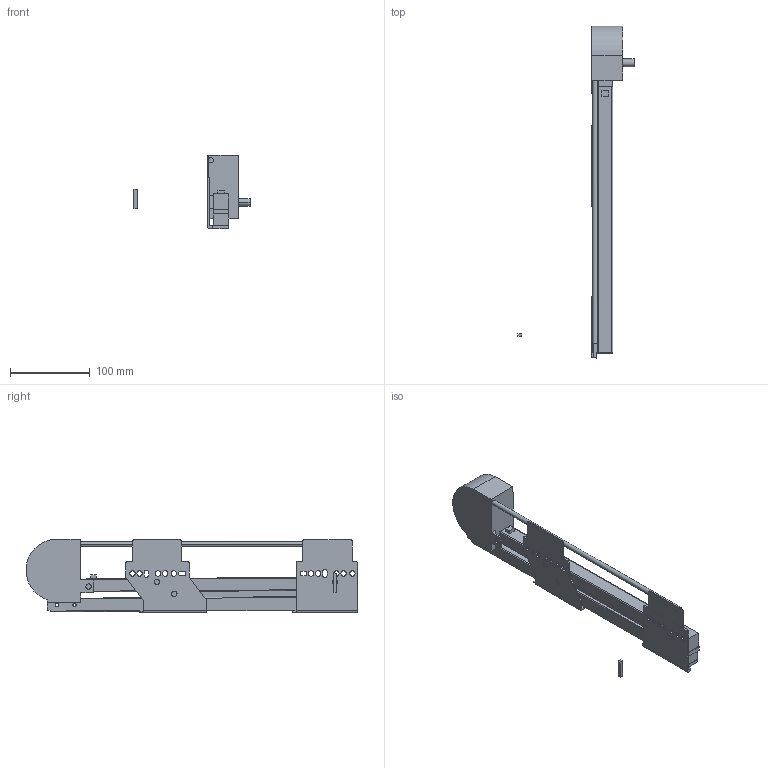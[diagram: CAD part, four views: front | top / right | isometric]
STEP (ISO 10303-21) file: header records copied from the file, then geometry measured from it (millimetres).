
FILE_DESCRIPTION (( 'STEP AP214' ), '1' );
FILE_NAME ('_IMOS_NOVA-Pro_Sensotronic_KS_P904_LI_NL-350_EB29mm.step', '2010-07-23T08:20:05', ( 'grass' ), ( '' ), 'SwSTEP 2.0', 'SolidWorks 2009', '' );
FILE_SCHEMA (( 'AUTOMOTIVE_DESIGN' ));
Length unit declared in the file: millimetre
Products named in the file (1): _IMOS_NOVA-Pro_Sensotronic_KS_P904_LI_NL-350_EB29mm
Bounding box: 145.8 x 416.55 x 92.71 mm (x, y, z)
Volume: 463043.2 mm3; surface area: 111229.9 mm2
Topology: 3 solids, 3 shells, 160 faces, 452 edges, 300 vertices
Faces by surface type: plane 96, cylinder 64
Entity records: 5325 total; most frequent: CARTESIAN_POINT 931, ORIENTED_EDGE 904, DIRECTION 897, EDGE_CURVE 452, LINE 317, VECTOR 317, VERTEX_POINT 300, AXIS2_PLACEMENT_3D 290
